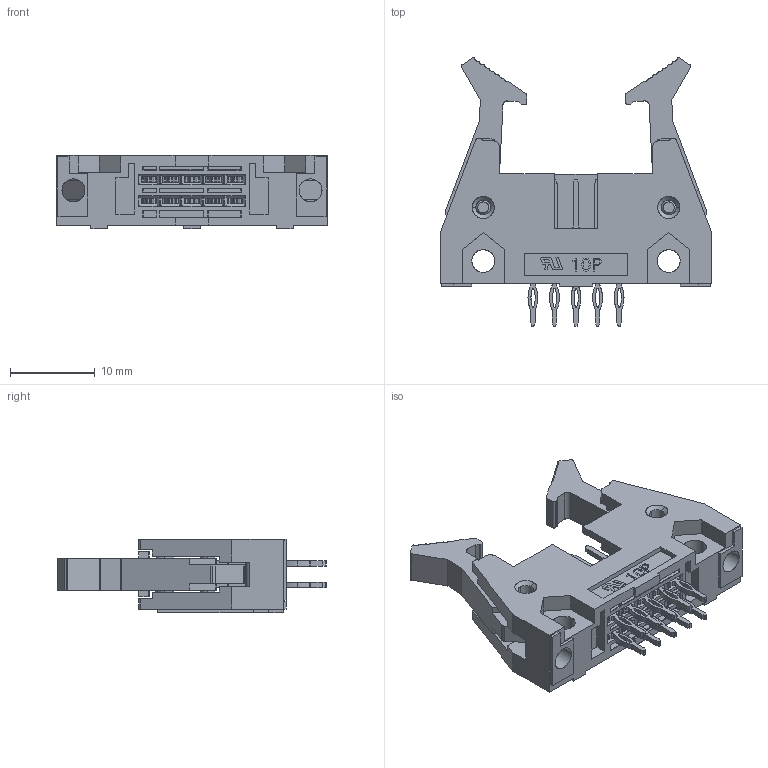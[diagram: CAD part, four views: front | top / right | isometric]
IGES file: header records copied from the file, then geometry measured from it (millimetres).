
Start section: SolidWorks IGES file using analytic representation for surfaces
Global section: file name: D:\RD\品管\3DS\未歸檔資料\3011-10G00SPB1A\3011-10G00SPB1A.IGS; native system: SolidWorks 2011; preprocessor: SolidWorks 2011; author: rd03; date: 150526.083711; units: millimetre
Bounding box: 31.88 x 31.66 x 8.6 mm (x, y, z)
Surface area: 4268.1 mm2 (no closed solid volume)
Topology: 0 solids, 0 shells, 1370 faces, 9676 edges, 9676 vertices
Faces by surface type: bspline 839, revolution 531
